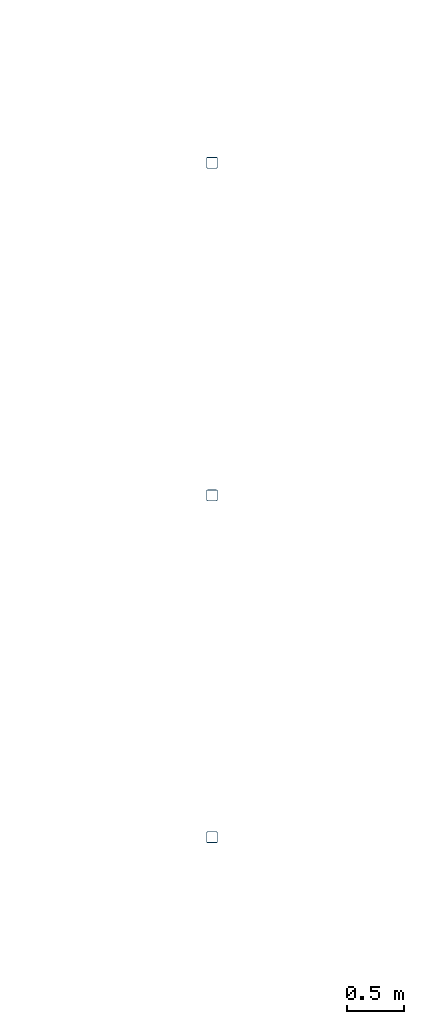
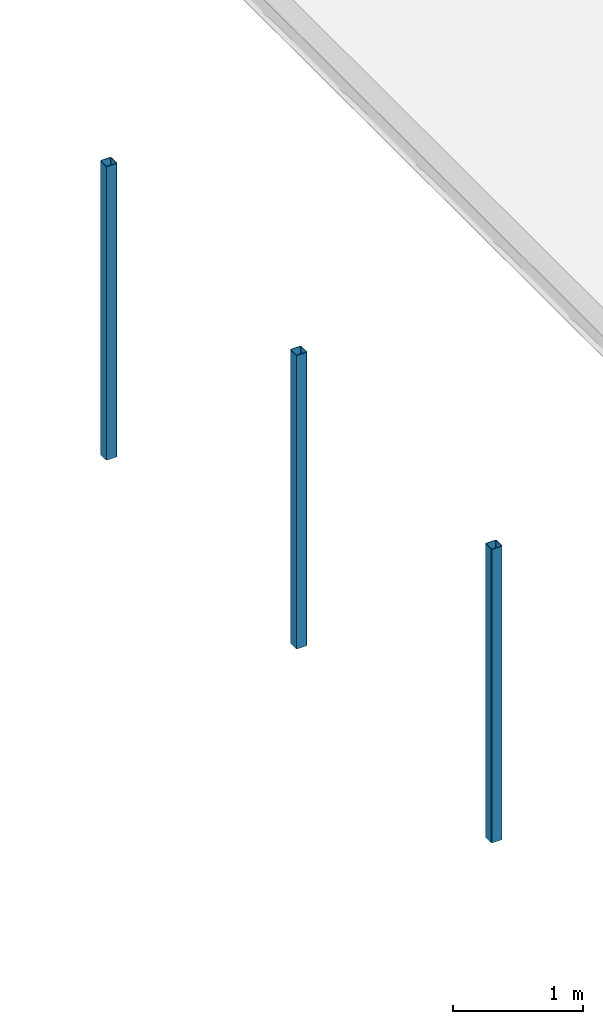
# One storey, part 2 of 7: 3 columns.
"""IFC2X3 building model written with IfcOpenShell, lengths in millimetres."""

from ifc_helpers import new_model, entity, si_unit, converted_unit, derived_unit, direction, frame, frame_2d, origin, place, context, subcontext, project, spatial, polyline, circle_curve, parameter, trimmed, segment, composite_curve, outline, extrude, source, transform, mapped, material, type_object, type_shapes, element, save


model = new_model("IFC2X3")

# Units and contexts
model_context = context("Model", 3, precision=0.01, world=origin(), true_north=direction((6.12303176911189e-17, 1.0)))
body_context = subcontext(model_context, "Body", "Model", "MODEL_VIEW")
ifc_project = project(units=[si_unit("LENGTHUNIT", "METRE", prefix="MILLI"), si_unit("AREAUNIT", "SQUARE_METRE"), si_unit("VOLUMEUNIT", "CUBIC_METRE"), converted_unit("PLANEANGLEUNIT", "DEGREE", entity("IfcRatioMeasure", 0.0174532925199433), si_unit("PLANEANGLEUNIT", "RADIAN"), dimensions=[0, 0, 0, 0, 0, 0, 0]), si_unit("MASSUNIT", "GRAM", prefix="KILO"), derived_unit("MASSDENSITYUNIT", [(si_unit("MASSUNIT", "GRAM", prefix="KILO"), 1), (si_unit("LENGTHUNIT", "METRE"), -3)]), si_unit("TIMEUNIT", "SECOND"), si_unit("FREQUENCYUNIT", "HERTZ"), si_unit("THERMODYNAMICTEMPERATUREUNIT", "DEGREE_CELSIUS"), derived_unit("THERMALTRANSMITTANCEUNIT", [(si_unit("MASSUNIT", "GRAM", prefix="KILO"), 1), (si_unit("THERMODYNAMICTEMPERATUREUNIT", "KELVIN"), -1), (si_unit("TIMEUNIT", "SECOND"), -3)]), derived_unit("VOLUMETRICFLOWRATEUNIT", [(si_unit("LENGTHUNIT", "METRE"), 3), (si_unit("TIMEUNIT", "SECOND"), -1)]), si_unit("ELECTRICCURRENTUNIT", "AMPERE"), si_unit("ELECTRICVOLTAGEUNIT", "VOLT"), si_unit("POWERUNIT", "WATT"), si_unit("FORCEUNIT", "NEWTON", prefix="KILO"), si_unit("ILLUMINANCEUNIT", "LUX"), si_unit("LUMINOUSFLUXUNIT", "LUMEN"), si_unit("LUMINOUSINTENSITYUNIT", "CANDELA"), derived_unit("USERDEFINED", [(si_unit("MASSUNIT", "GRAM", prefix="KILO"), -1), (si_unit("LENGTHUNIT", "METRE"), -2), (si_unit("TIMEUNIT", "SECOND"), 3), (si_unit("LUMINOUSFLUXUNIT", "LUMEN"), 1)]), derived_unit("LINEARVELOCITYUNIT", [(si_unit("LENGTHUNIT", "METRE"), 1), (si_unit("TIMEUNIT", "SECOND"), -1)]), si_unit("PRESSUREUNIT", "PASCAL"), derived_unit("USERDEFINED", [(si_unit("LENGTHUNIT", "METRE"), -2), (si_unit("MASSUNIT", "GRAM", prefix="KILO"), 1), (si_unit("TIMEUNIT", "SECOND"), -2)])], contexts=[model_context])

# Site, building, storey
site_placement = place(None, frame((0.0, 0.0, 101000.0)))
site = spatial("IfcSite", under=ifc_project, at=site_placement, Name="Default", CompositionType="ELEMENT")
building_placement = place(site_placement, origin())
building = spatial("IfcBuilding", under=site, at=building_placement, CompositionType="ELEMENT")
storey_placement = place(building_placement, frame((0.0, 0.0, 3150.0)))
storey = spatial("IfcBuildingStorey", under=building, at=storey_placement, Name="02", CompositionType="ELEMENT", Elevation=3149.9999999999)

# Columns
ifc_material = material(Name="S355")
column_type = type_object("IfcColumnType", Name="HUP 100x100x6.3", PredefinedType="COLUMN", material=ifc_material)
shared_shape = source(origin(), body_context, "Body", "SweptSolid", [
    extrude(outline(composite_curve([segment(polyline([(-37.4000000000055, -50.0), (37.4000000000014, -50.0)]), True, "CONTINUOUS"), segment(trimmed(circle_curve(frame_2d((37.4000000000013, -37.3999999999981), x_axis=(-1.0, 0.0)), 12.6000000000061), [parameter(90.0000000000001)], [parameter(180.0)], True, "PARAMETER"), True, "CONTINUOUS"), segment(polyline([(50.0, -37.3999999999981), (50.0, 37.4000000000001)]), True, "CONTINUOUS"), segment(trimmed(circle_curve(frame_2d((37.4000000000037, 37.4000000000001), x_axis=(-1.0, 0.0)), 12.6000000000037), [parameter(180.0)], [parameter(270.0)], True, "PARAMETER"), True, "CONTINUOUS"), segment(polyline([(37.4000000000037, 50.0), (-37.4000000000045, 50.0)]), True, "CONTINUOUS"), segment(trimmed(circle_curve(frame_2d((-37.4000000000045, 37.4000000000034), x_axis=(-1.0, 0.0)), 12.6000000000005), [parameter(270.0)], [parameter(360.0)], True, "PARAMETER"), True, "CONTINUOUS"), segment(polyline([(-50.0, 37.4000000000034), (-50.0, -37.4000000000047)]), True, "CONTINUOUS"), segment(trimmed(circle_curve(frame_2d((-37.4000000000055, -37.4000000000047), x_axis=(-1.0, 0.0)), 12.5999999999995), [parameter(360.0)], [parameter(89.9999999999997)], True, "PARAMETER"), True, "CONTINUOUS")], self_intersect=False), holes=[composite_curve([segment(trimmed(circle_curve(frame_2d((-37.4000000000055, -37.4000000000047), x_axis=(-1.0, 0.0)), 6.2999999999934), [parameter(0.0)], [parameter(90.0)], True, "PARAMETER"), False, "CONTINUOUS"), segment(polyline([(-43.6999999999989, -37.4000000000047), (-43.6999999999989, 37.4000000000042)]), True, "CONTINUOUS"), segment(trimmed(circle_curve(frame_2d((-37.4000000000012, 37.4000000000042), x_axis=(-1.0, 0.0)), 6.29999999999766), [parameter(270.0)], [parameter(360.0)], True, "PARAMETER"), False, "CONTINUOUS"), segment(polyline([(-37.4000000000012, 43.7000000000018), (37.3999999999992, 43.7000000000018)]), True, "CONTINUOUS"), segment(trimmed(circle_curve(frame_2d((37.3999999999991, 37.3999999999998), x_axis=(-1.0, 0.0)), 6.30000000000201), [parameter(180.0)], [parameter(270.0)], True, "PARAMETER"), False, "CONTINUOUS"), segment(polyline([(43.7000000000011, 37.3999999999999), (43.7000000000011, -37.3999999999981)]), True, "CONTINUOUS"), segment(trimmed(circle_curve(frame_2d((37.4000000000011, -37.3999999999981), x_axis=(-1.0, 0.0)), 6.30000000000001), [parameter(90.0000000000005)], [parameter(180.0)], True, "PARAMETER"), False, "CONTINUOUS"), segment(polyline([(37.4000000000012, -43.6999999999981), (-37.4000000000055, -43.6999999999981)]), True, "CONTINUOUS")], self_intersect=False)]), frame((0.0, 0.0, 3150.0), z_axis=(0.0, 0.0, 1.0), x_axis=(-1.0, 0.0, 0.0)), (0.0, 0.0, 1.0), 2755.0),
])
type_shapes(column_type, [shared_shape])
for number, where, name in (
    (1, (11411.2644969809, 38342.9507529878, -3150.0), "Søyle HUP:HUP 100x100x6.3"),
    (2, (11411.2644969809, 35420.5450559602, -3150.0), "Søyle HUP:HUP 100x100x6.3"),
    (3, (11411.2644969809, 32417.9507529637, -3150.0), "Søyle HUP:HUP 100x100x6.3"),
):
    element("IfcColumn", number, at=place(storey_placement, frame(where)), inside=storey, type_object=column_type, material=ifc_material, Name=name, ObjectType="HUP 100x100x6.3", context=body_context, shape_type="MappedRepresentation", body=[
        mapped(shared_shape, transform((0.0, 0.0, 0.0), scale=1.0)),
    ])

save(model, "model.ifc")
